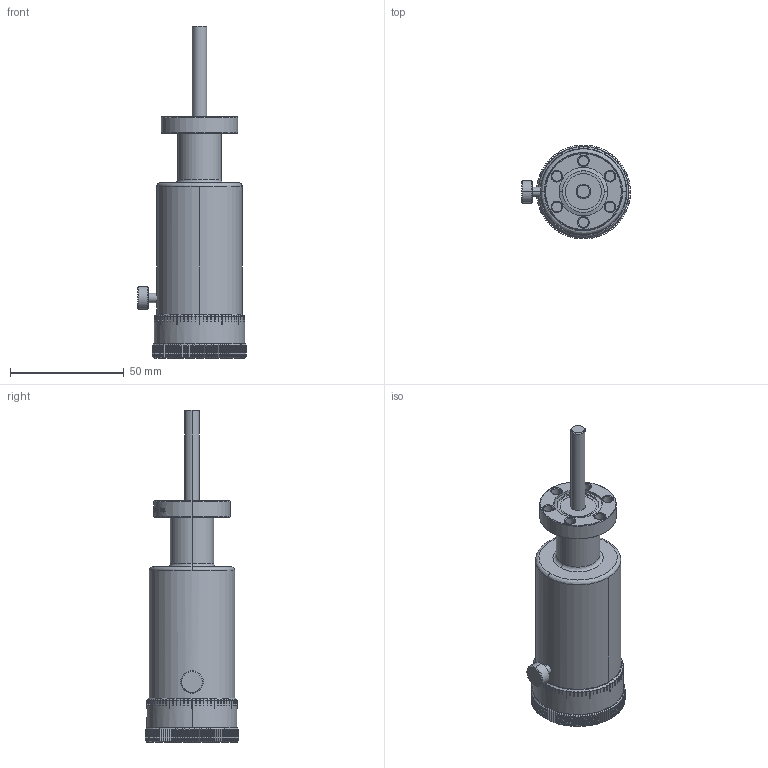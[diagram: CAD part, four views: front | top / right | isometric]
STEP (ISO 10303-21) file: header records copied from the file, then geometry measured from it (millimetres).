
FILE_DESCRIPTION (( 'STEP AP203' ), '1' );
FILE_NAME ('102100.stp', '2019-04-16T18:16:30', ( '' ), ( '' ), 'SwSTEP 2.0', 'SolidWorks 2012', '' );
FILE_SCHEMA (( 'CONFIG_CONTROL_DESIGN' ));
Length unit declared in the file: centimetre
Products named in the file (1): 102100
Bounding box: 47.81 x 41.27 x 145.9 mm (x, y, z)
Volume: 101018 mm3; surface area: 17016.7 mm2
Topology: 1 solids, 1 shells, 955 faces, 2723 edges, 1808 vertices
Faces by surface type: plane 476, cylinder 292, bspline 145, cone 42
Entity records: 59562 total; most frequent: CARTESIAN_POINT 36400, ORIENTED_EDGE 5446, DIRECTION 3991, EDGE_CURVE 2723, VERTEX_POINT 1808, AXIS2_PLACEMENT_3D 1485, VECTOR 1021, LINE 1021
